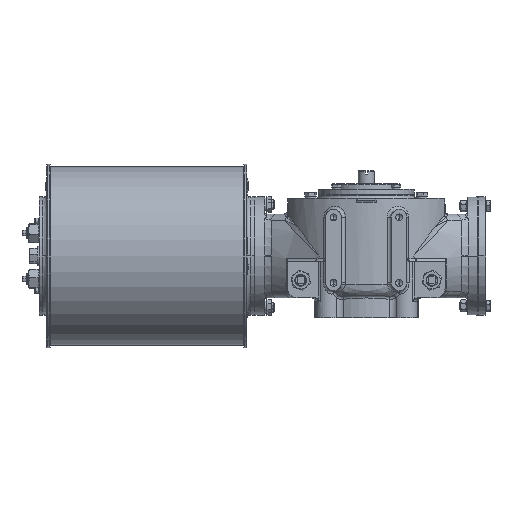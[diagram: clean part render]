
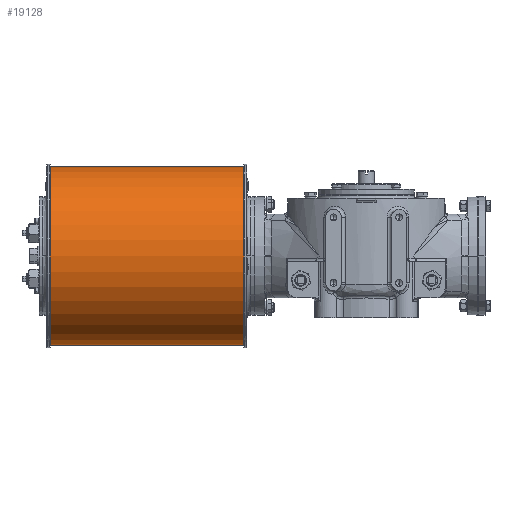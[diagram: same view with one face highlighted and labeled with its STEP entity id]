
A CAD part, front view. The second image highlights one B-rep face of the part: STEP entity #19128.
In plain terms, the highlighted cylindrical face has radius 136.5 mm (diameter 273 mm), a partial arc.
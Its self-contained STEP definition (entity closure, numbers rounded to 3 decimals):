
#1764 = DIRECTION ( 'NONE',  ( -1., 0., 0. ) ) ;
#2756 = DIRECTION ( 'NONE',  ( 0., 0., 1. ) ) ;
#3634 = AXIS2_PLACEMENT_3D ( 'NONE', #11471, #1764, #25148 ) ;
#4890 = LINE ( 'NONE', #51610, #9200 ) ;
#6802 = AXIS2_PLACEMENT_3D ( 'NONE', #9215, #18306, #36806 ) ;
#7316 = CYLINDRICAL_SURFACE ( 'NONE', #28890, 136.5 ) ;
#7701 = CARTESIAN_POINT ( 'NONE',  ( -185.523, 35.296, -134.5 ) ) ;
#8903 = ORIENTED_EDGE ( 'NONE', *, *, #23725, .F. ) ;
#9200 = VECTOR ( 'NONE', #51303, 1000. ) ;
#9215 = CARTESIAN_POINT ( 'NONE',  ( -480.523, 35.296, 2. ) ) ;
#9729 = VERTEX_POINT ( 'NONE', #7701 ) ;
#10668 = CIRCLE ( 'NONE', #6802, 136.5 ) ;
#10949 = EDGE_LOOP ( 'NONE', ( #57233, #39209, #44263, #8903 ) ) ;
#11381 = CARTESIAN_POINT ( 'NONE',  ( -185.523, 35.296, 138.5 ) ) ;
#11471 = CARTESIAN_POINT ( 'NONE',  ( -185.523, 35.296, 2. ) ) ;
#11875 = CARTESIAN_POINT ( 'NONE',  ( -480.523, 35.296, 2. ) ) ;
#16181 = EDGE_CURVE ( 'NONE', #9729, #35230, #42404, .T. ) ;
#17914 = DIRECTION ( 'NONE',  ( 1., 0., 0. ) ) ;
#18306 = DIRECTION ( 'NONE',  ( 1., 0., 0. ) ) ;
#19128 = ADVANCED_FACE ( 'NONE', ( #53138 ), #7316, .T. ) ;
#22726 = CARTESIAN_POINT ( 'NONE',  ( -480.523, 35.296, 138.5 ) ) ;
#23725 = EDGE_CURVE ( 'NONE', #51459, #35230, #4890, .T. ) ;
#25148 = DIRECTION ( 'NONE',  ( 0., 0., 1. ) ) ;
#26738 = CARTESIAN_POINT ( 'NONE',  ( -480.523, 35.296, -134.5 ) ) ;
#28524 = VERTEX_POINT ( 'NONE', #57982 ) ;
#28890 = AXIS2_PLACEMENT_3D ( 'NONE', #11875, #48870, #2756 ) ;
#31216 = VECTOR ( 'NONE', #17914, 1000. ) ;
#33706 = EDGE_CURVE ( 'NONE', #28524, #9729, #40971, .T. ) ;
#35230 = VERTEX_POINT ( 'NONE', #11381 ) ;
#35422 = EDGE_CURVE ( 'NONE', #51459, #28524, #10668, .T. ) ;
#36806 = DIRECTION ( 'NONE',  ( 0., 0., 1. ) ) ;
#39209 = ORIENTED_EDGE ( 'NONE', *, *, #33706, .T. ) ;
#40971 = LINE ( 'NONE', #26738, #31216 ) ;
#42404 = CIRCLE ( 'NONE', #3634, 136.5 ) ;
#44263 = ORIENTED_EDGE ( 'NONE', *, *, #16181, .T. ) ;
#48870 = DIRECTION ( 'NONE',  ( 1., 0., 0. ) ) ;
#51303 = DIRECTION ( 'NONE',  ( 1., 0., 0. ) ) ;
#51459 = VERTEX_POINT ( 'NONE', #22726 ) ;
#51610 = CARTESIAN_POINT ( 'NONE',  ( -480.523, 35.296, 138.5 ) ) ;
#53138 = FACE_OUTER_BOUND ( 'NONE', #10949, .T. ) ;
#57233 = ORIENTED_EDGE ( 'NONE', *, *, #35422, .T. ) ;
#57982 = CARTESIAN_POINT ( 'NONE',  ( -480.523, 35.296, -134.5 ) ) ;
